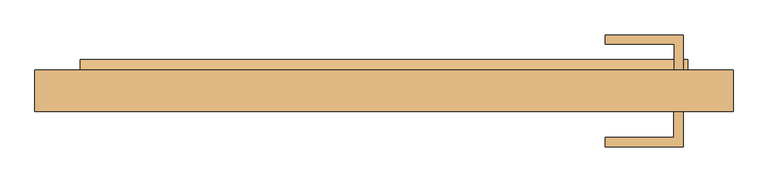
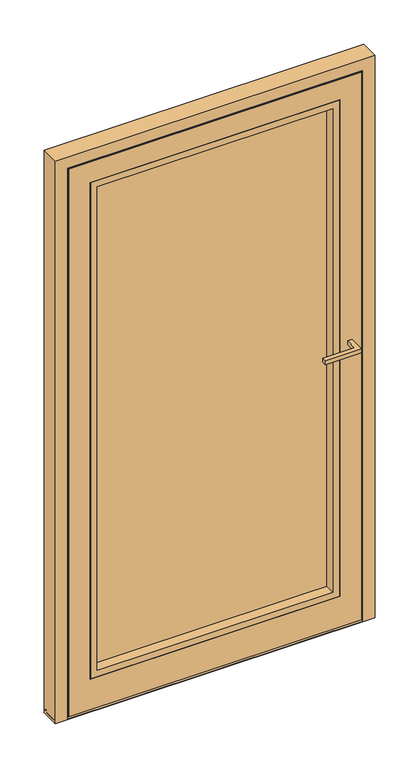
"""IFC4 building model written with IfcOpenShell, lengths in millimetres: door geometry, Reynaers_CS 77_Door_Plinth_Inward Opening_Single Vent : Reynaers_CS 77_Door_Plinth_Inward Opening_Single Vent."""

from ifc_helpers import new_model, si_unit, frame, origin, place, context, project, spatial, polyline, outline, extrude, faceted_brep, source, transform, mapped, element, save


def door_b5e8bffb(model_context):
    return source(origin(), model_context, "Body", "SolidModel", [
        extrude(outline(polyline([(488.7934348, 42.5), (473.7934348, 42.5), (473.7934348, 85.0), (361.2934348, 85.0), (361.2934348, 100.0), (488.7934348, 100.0), (488.7934348, 42.5)])), frame((0.0, 0.0, 1062.5), z_axis=(0.0, 0.0, 1.0), x_axis=(1.0, 0.0, 0.0)), (0.0, 0.0, 1.0), 15.0),
        extrude(outline(polyline([(488.5, -25.5), (488.5, -83.0), (361.0, -83.0), (361.0, -68.0), (473.5, -68.0), (473.5, -25.5), (488.5, -25.5)])), frame((0.0, 0.0, 1062.5), z_axis=(0.0, 0.0, 1.0), x_axis=(1.0, 0.0, 0.0)), (0.0, 0.0, 1.0), 15.0),
        faceted_brep([(-522.0, -25.5, 10.5), (-522.0, -21.5, 10.5), (522.0, -21.5, 10.5), (522.0, -25.5, 10.5), (-522.0, -25.5, 2072.0), (-522.0, -21.5, 2072.0), (522.0, -21.5, 2072.0), (507.0, -21.5, 2057.0), (-507.0, -21.5, 2057.0), (-507.0, -21.5, 49.5), (507.0, -21.5, 49.5), (522.0, -25.5, 2072.0), (-445.0, -25.5, 1995.0), (445.0, -25.5, 1995.0), (445.0, -25.5, 124.5), (-445.0, -25.5, 124.5), (445.0, 34.5, 1995.0), (445.0, 34.5, 124.5), (-445.0, 34.5, 1995.0), (-445.0, 34.5, 124.5), (-420.0, 34.5, 1970.0), (420.0, 34.5, 1970.0), (420.0, 34.5, 149.5), (-420.0, 34.5, 149.5), (-507.0, 32.7, 2057.0), (-507.0, 32.7, 49.5), (507.0, 32.7, 49.5), (-496.0, 32.7, 49.5), (-496.0, 42.5, 49.5), (496.0, 42.5, 49.5), (496.0, 32.7, 49.5), (507.0, 32.7, 2057.0), (496.0, 32.7, 2046.0), (-496.0, 32.7, 2046.0), (496.0, 42.5, 2046.0), (-496.0, 42.5, 2046.0), (420.0, 42.5, 1970.0), (-420.0, 42.5, 1970.0), (-420.0, 42.5, 149.5), (420.0, 42.5, 149.5)], [[[0, 1, 2, 3]], [[1, 0, 4, 5]], [[5, 6, 2, 1], [7, 8, 9, 10]], [[6, 11, 3, 2]], [[11, 4, 0, 3], [12, 13, 14, 15]], [[13, 16, 17, 14]], [[16, 18, 19, 17], [20, 21, 22, 23]], [[15, 14, 17, 19]], [[18, 12, 15, 19]], [[8, 24, 25, 9]], [[26, 10, 9, 25, 27, 28, 29, 30]], [[31, 7, 10, 26]], [[24, 31, 26, 30, 32, 33, 27, 25]], [[34, 32, 30, 29]], [[35, 34, 29, 28], [36, 37, 38, 39]], [[21, 36, 39, 22]], [[39, 38, 23, 22]], [[33, 35, 28, 27]], [[37, 20, 23, 38]], [[12, 18, 16, 13]], [[5, 4, 11, 6]], [[8, 7, 31, 24]], [[35, 33, 32, 34]], [[20, 37, 36, 21]]]),
        extrude(outline(polyline([(125.5, -444.0), (125.5, 444.0), (1994.0, 444.0), (1994.0, -444.0), (125.5, -444.0)]), holes=[polyline([(149.5, 420.0), (149.5, -420.0), (1970.0, -420.0), (1970.0, 420.0), (149.5, 420.0)])]), frame((0.0, -25.5, 0.0), z_axis=(0.0, 1.0, 0.0), x_axis=(0.0, 0.0, 1.0)), (0.0, 0.0, 1.0), 36.0),
        extrude(outline(polyline([(439.0, 10.5), (-439.0, 10.5), (-439.0, 34.5), (439.0, 34.5), (439.0, 10.5)])), frame((0.0, 0.0, 130.5), z_axis=(0.0, 0.0, 1.0), x_axis=(1.0, 0.0, 0.0)), (0.0, 0.0, 1.0), 1858.5),
        faceted_brep([(-502.0, 38.7, 0.0), (-517.0, 38.7, 0.0), (-517.0, -15.7, 0.0), (-528.0, -15.7, 0.0), (-528.0, -25.5, 0.0), (-570.0, -25.5, 0.0), (-570.0, 42.5, 0.0), (-502.0, 42.5, 0.0), (-502.0, 38.7, 2052.0), (502.0, 38.7, 2052.0), (502.0, 38.7, 0.0), (517.0, 38.7, 0.0), (517.0, 38.7, 2067.0), (-517.0, 38.7, 2067.0), (-517.0, -15.7, 2067.0), (517.0, -15.7, 2067.0), (517.0, -15.7, 0.0), (528.0, -15.7, 0.0), (528.0, -15.7, 2078.0), (-528.0, -15.7, 2078.0), (-528.0, -25.5, 2078.0), (528.0, -25.5, 2078.0), (528.0, -25.5, 0.0), (570.0, -25.5, 0.0), (570.0, -25.5, 2120.0), (-570.0, -25.5, 2120.0), (-570.0, 42.5, 2120.0), (570.0, 42.5, 2120.0), (570.0, 42.5, 0.0), (502.0, 42.5, 0.0), (502.0, 42.5, 2052.0), (-502.0, 42.5, 2052.0)], [[[0, 1, 2, 3, 4, 5, 6, 7]], [[1, 0, 8, 9, 10, 11, 12, 13]], [[2, 1, 13, 14]], [[3, 2, 14, 15, 16, 17, 18, 19]], [[4, 3, 19, 20]], [[5, 4, 20, 21, 22, 23, 24, 25]], [[6, 5, 25, 26]], [[7, 6, 26, 27, 28, 29, 30, 31]], [[0, 7, 31, 8]], [[9, 30, 29, 10]], [[10, 29, 28, 23, 22, 17, 16, 11]], [[15, 12, 11, 16]], [[27, 24, 23, 28]], [[21, 18, 17, 22]], [[26, 25, 24, 27]], [[8, 31, 30, 9]], [[14, 13, 12, 15]], [[20, 19, 18, 21]]]),
        extrude(outline(polyline([(42.4923346, 37.731662), (59.5, 31.5413781), (59.5, 21.5), (30.5064116, 21.5), (30.5064116, 18.8954051), (22.0, 18.8954051), (22.0, 24.7), (33.7, 24.7), (33.7, 37.731662), (42.4923346, 37.731662)])), frame((-496.0, 0.0, 0.0), z_axis=(1.0, 0.0, 0.0), x_axis=(0.0, 1.0, 0.0)), (0.0, 0.0, 1.0), 992.0),
        extrude(outline(polyline([(-25.5, 1.9998842), (-16.5, 2.4715542), (-16.5, 10.5), (25.8950457, 10.5), (31.5376477, 19.0941012), (42.5, 11.8965841), (42.5, 1.0), (-25.5, 1.0), (-25.5, 1.9998842)])), frame((-570.0, 0.0, 0.0), z_axis=(1.0, 0.0, 0.0), x_axis=(0.0, 1.0, 0.0)), (0.0, 0.0, 1.0), 1140.0),
    ])


if __name__ == "__main__":
    model = new_model("IFC4")
    model_context = context("Model", 3, world=origin())
    ifc_project = project(units=[si_unit("LENGTHUNIT", "METRE", prefix="MILLI")], contexts=[model_context])
    site = spatial("IfcSite", under=ifc_project)
    building = spatial("IfcBuilding", under=site)
    placement = place(None, origin())
    door_shape = door_b5e8bffb(model_context)
    element("IfcDoor", 1, ObjectType="Reynaers_CS 77_Door_Plinth_Inward Opening_Single Vent : Reynaers_CS 77_Door_Plinth_Inward Opening_Single Vent", at=placement, inside=building, context=model_context, shape_type="MappedRepresentation", body=[
        mapped(door_shape, transform((0.0, 0.0, 0.0), x_axis=(1.0, 0.0, 0.0), y_axis=(0.0, 1.0, 0.0), z_axis=(0.0, 0.0, 1.0))),
    ])
    save(model, "model.ifc")
